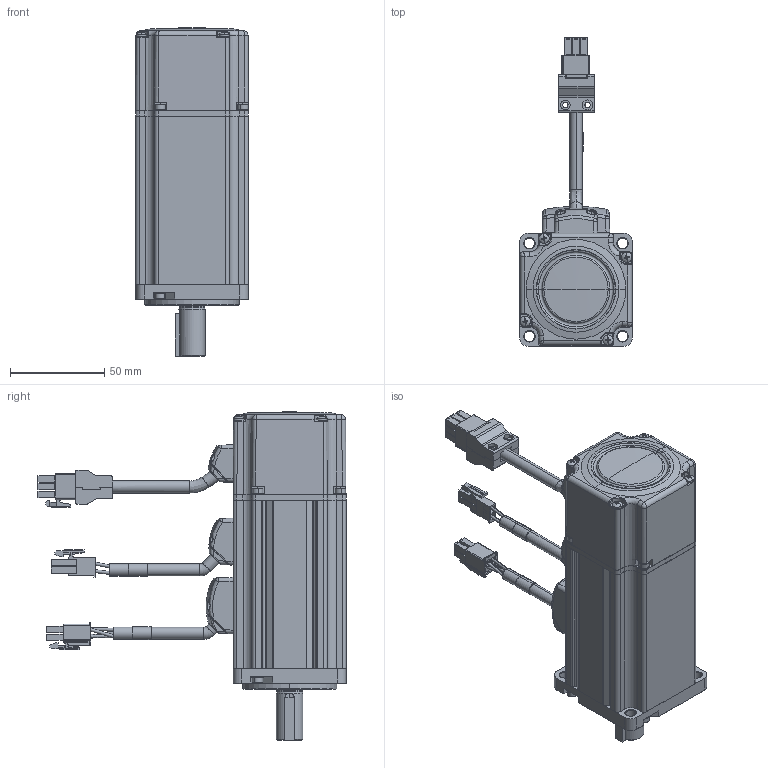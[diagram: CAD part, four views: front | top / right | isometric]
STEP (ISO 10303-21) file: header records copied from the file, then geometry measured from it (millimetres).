
FILE_DESCRIPTION (( 'STEP AP203' ), '1' );
FILE_NAME ('SM0601AE4-KCD-BNV(-C).STEP', '2016-07-11T05:51:41', ( '' ), ( '' ), 'SwSTEP 2.0', 'SolidWorks 2012', '' );
FILE_SCHEMA (( 'CONFIG_CONTROL_DESIGN' ));
Length unit declared in the file: millimetre
Products named in the file (1): SM0601AE4-KCD-BNV(-C)
Bounding box: 60 x 163.72 x 174.5 mm (x, y, z)
Surface area: 68199.6 mm2 (no closed solid volume)
Topology: 0 solids, 52 shells, 1320 faces, 3978 edges, 2671 vertices
Faces by surface type: plane 593, cylinder 340, bspline 166, cone 125, torus 78, sphere 18
Entity records: 51144 total; most frequent: CARTESIAN_POINT 16408, DIRECTION 7130, ORIENTED_EDGE 6781, EDGE_CURVE 3974, VERTEX_POINT 2671, AXIS2_PLACEMENT_3D 2422, LINE 2286, VECTOR 2286
